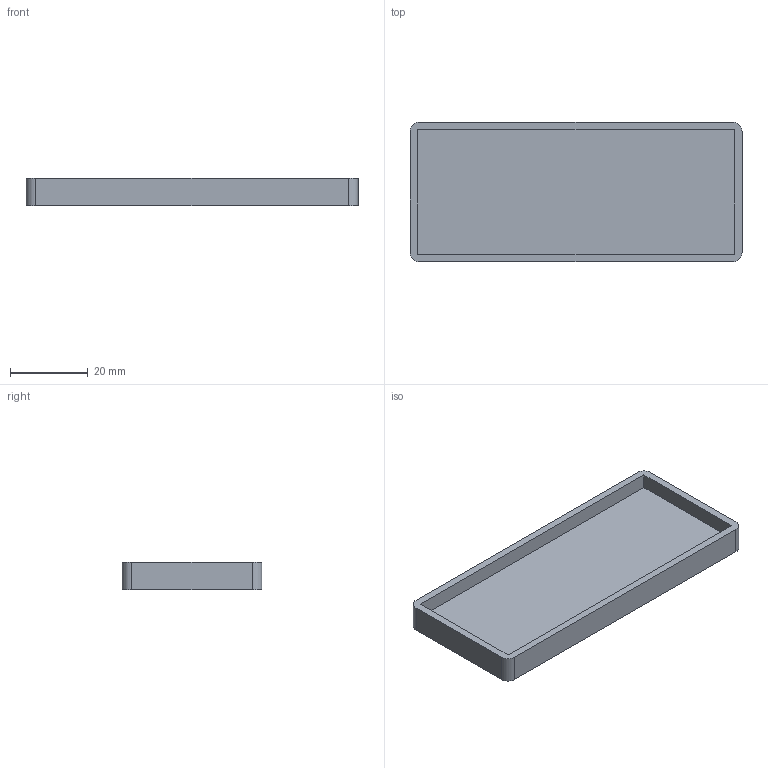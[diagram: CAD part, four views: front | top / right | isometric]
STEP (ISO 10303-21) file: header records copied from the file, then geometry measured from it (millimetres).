
FILE_DESCRIPTION(/* description */ (''),/* implementation_level */ '2;1');
FILE_NAME(/* name */ 'BM7C v1.step',/* time_stamp */ '2024-07-04T14:24:54+05:30',/* author */ (''),/* organization */ (''),/* preprocessor_version */ 'ST-DEVELOPER v20',/* originating_system */ 'Autodesk Translation Framework v13.14.0.145',/* authorisation */ '');
FILE_SCHEMA (('AUTOMOTIVE_DESIGN { 1 0 10303 214 3 1 1 }'));
Length unit declared in the file: millimetre
Products named in the file (1): BM7C
Bounding box: 85.5 x 36 x 7 mm (x, y, z)
Volume: 11076.4 mm3; surface area: 8724.2 mm2
Topology: 1 solids, 1 shells, 15 faces, 36 edges, 24 vertices
Faces by surface type: plane 11, cylinder 4
Entity records: 471 total; most frequent: DIRECTION 76, CARTESIAN_POINT 76, ORIENTED_EDGE 72, EDGE_CURVE 36, LINE 28, VECTOR 28, VERTEX_POINT 24, AXIS2_PLACEMENT_3D 24
